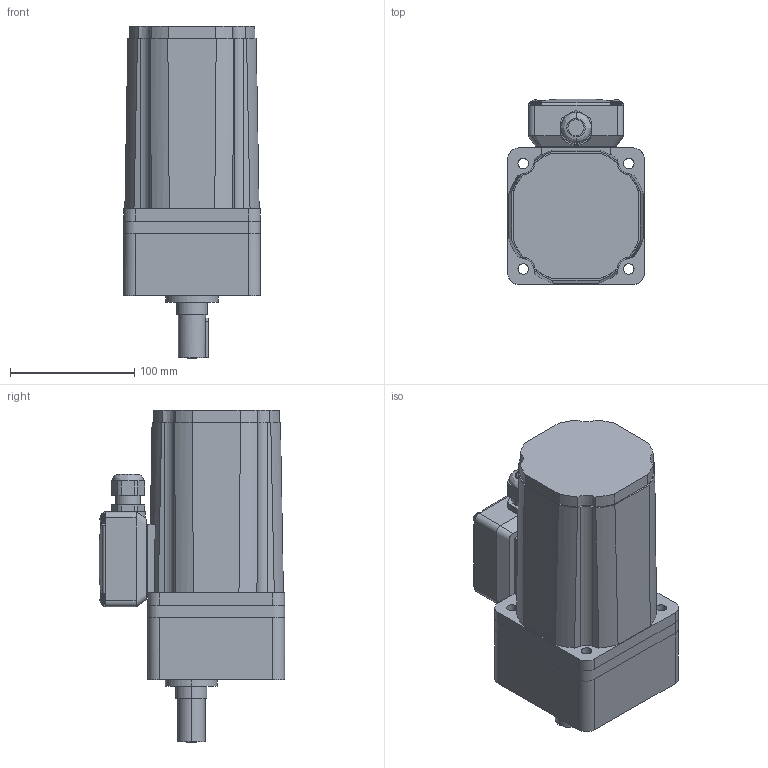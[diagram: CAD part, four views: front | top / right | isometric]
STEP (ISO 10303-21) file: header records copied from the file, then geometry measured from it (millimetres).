
FILE_DESCRIPTION (( 'STEP AP203' ), '1' );
FILE_NAME ('A1723A.step', '2020-01-22T00:14:14', ( '' ), ( '' ), 'SwSTEP 2.0', 'SolidWorks 2017', '' );
FILE_SCHEMA (( 'CONFIG_CONTROL_DESIGN' ));
Length unit declared in the file: millimetre
Products named in the file (1): A1723A
Bounding box: 110 x 149 x 267 mm (x, y, z)
Volume: 2438753.7 mm3; surface area: 165272.1 mm2
Topology: 2 solids, 2 shells, 279 faces, 726 edges, 478 vertices
Faces by surface type: cylinder 134, plane 97, cone 26, bspline 22
Entity records: 9637 total; most frequent: CARTESIAN_POINT 2580, DIRECTION 1509, ORIENTED_EDGE 1448, EDGE_CURVE 724, AXIS2_PLACEMENT_3D 593, VERTEX_POINT 478, CIRCLE 335, EDGE_LOOP 324
